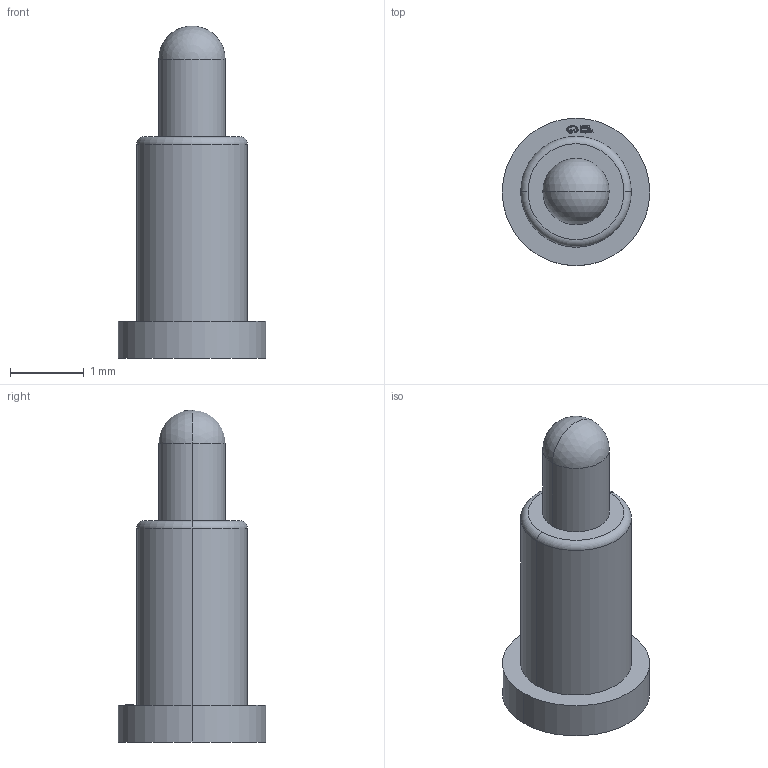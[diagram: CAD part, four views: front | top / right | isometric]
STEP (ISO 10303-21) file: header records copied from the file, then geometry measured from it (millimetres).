
FILE_DESCRIPTION (( 'STEP AP214' ), '1' );
FILE_NAME ('CONN-SMD_YTC1P-3015-01.STEP', '2023-03-15T12:26:01', ( '微软用户' ), ( '微软中国' ), 'SwSTEP 2.0', 'SolidWorks 2020', '' );
FILE_SCHEMA (( 'AUTOMOTIVE_DESIGN' ));
Length unit declared in the file: millimetre
Products named in the file (1): CONN-SMD_YTC1P-3015-01
Bounding box: 2 x 2 x 4.5 mm (x, y, z)
Volume: 6.8 mm3; surface area: 24.6 mm2
Topology: 1 solids, 1 shells, 237 faces, 643 edges, 427 vertices
Faces by surface type: plane 129, bspline 98, cylinder 6, torus 2, sphere 2
Entity records: 10540 total; most frequent: CARTESIAN_POINT 2608, ORIENTED_EDGE 1278, DIRECTION 737, EDGE_CURVE 639, VERTEX_POINT 425, VECTOR 421, LINE 421, EDGE_LOOP 258
